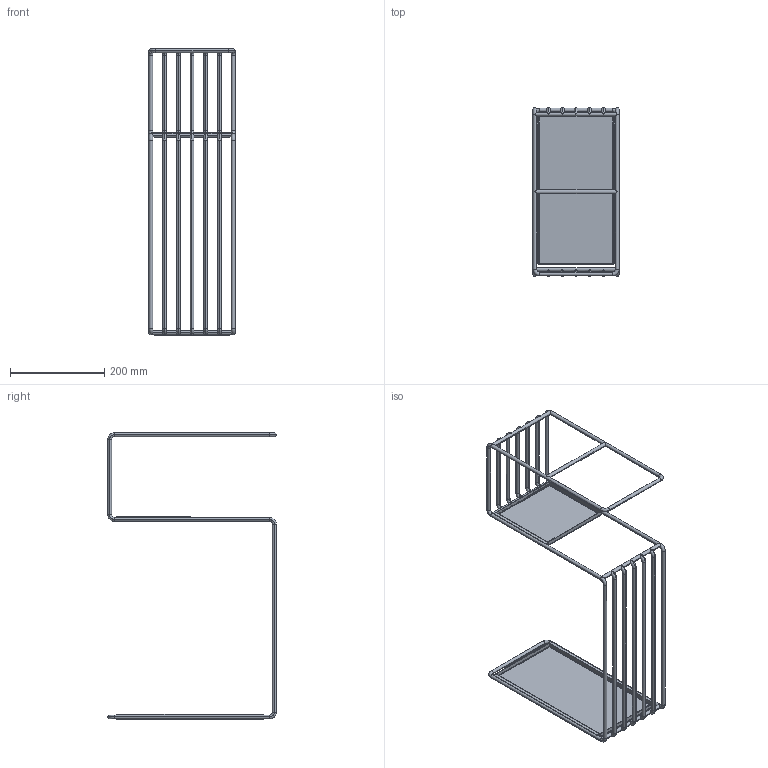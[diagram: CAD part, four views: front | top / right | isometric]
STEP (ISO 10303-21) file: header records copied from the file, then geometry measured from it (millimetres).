
FILE_DESCRIPTION((''),'2;1');
FILE_NAME('RAIMOND_ASM','2026-06-25T09:53:29',('Davide'),(''),'CREO PARAMETRIC BY PTC INC, 2026053','CREO PARAMETRIC BY PTC INC, 2026053','');
FILE_SCHEMA(('AUTOMOTIVE_DESIGN { 1 0 10303 214 1 1 1 1 }'));
Length unit declared in the file: millimetre
Products named in the file (4): RAIMOND_V5; PIANO_PORTAOMBRELLI; PIANO_PORTAOMBRELLI_MEZZO; RAIMOND_ASM
Assembly tree (3 placements, depth 2):
  RAIMOND_ASM
    RAIMOND_V5
    PIANO_PORTAOMBRELLI
    PIANO_PORTAOMBRELLI_MEZZO
Bounding box: 183 x 358 x 608.6 mm (x, y, z)
Volume: 489882.6 mm3; surface area: 378172.2 mm2
Topology: 3 solids, 3 shells, 216 faces, 665 edges, 490 vertices
Faces by surface type: cylinder 98, torus 72, plane 38, bspline 8
Entity records: 12967 total; most frequent: CARTESIAN_POINT 3268, DIRECTION 1291, ORIENTED_EDGE 1200, PRESENTATION_STYLE_ASSIGNMENT 899, STYLED_ITEM 899, CURVE_STYLE 680, EDGE_CURVE 600, AXIS2_PLACEMENT_3D 519
